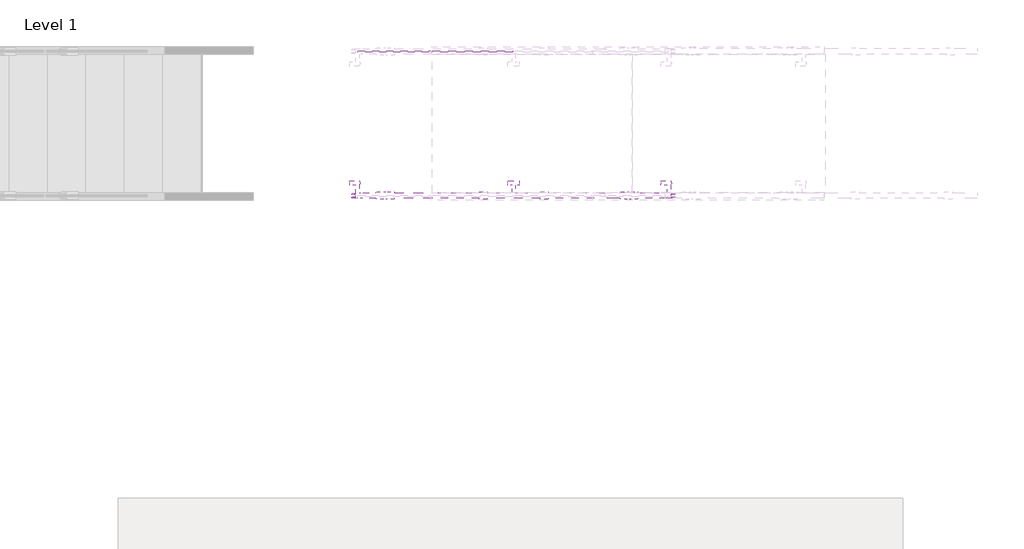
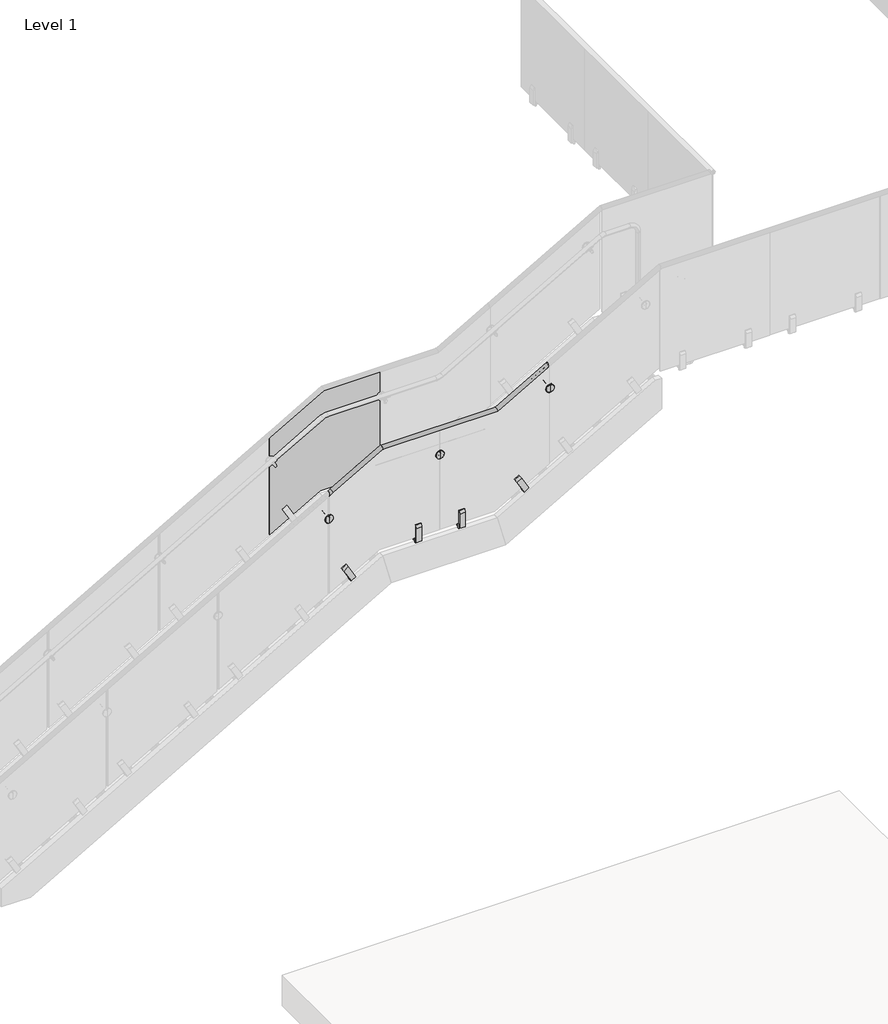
# One storey, part 4 of 17: 2 railings.
"""IFC4 building model written with IfcOpenShell, lengths in millimetres."""

from ifc_helpers import new_model, si_unit, point, frame, frame_2d, origin, place, context, project, spatial, polyline, circle_curve, ellipse_curve, trimmed, segment, composite_curve, outline, extrude, transform, mapped, element, save
from ifc_brep_helpers import plane_surface, cylinder_surface, revolved_surface, advanced_brep
from components import standard_glass_eb46f0c2

model = new_model("IFC4")

# Units and contexts
model_context = context("Model", 3, world=origin())
ifc_project = project(units=[si_unit("LENGTHUNIT", "METRE", prefix="MILLI")], contexts=[model_context])

# Site, building, storey
site = spatial("IfcSite", under=ifc_project)
building = spatial("IfcBuilding", under=site)
storey = spatial("IfcBuildingStorey", under=building, Name="Level 1", Elevation=0.0)

# Railings
placement = place(None, origin())
element("IfcRailing", 1, ObjectType="VIVA-VISIO-Glass-Steel Surface Mount-Stair-Landing", at=placement, inside=storey, context=model_context, shape_type="SolidModel", body=[
    advanced_brep(
    [(27409.6773931, -22033.4070565, 2977.4583674), (27409.7053311, -22056.3417549, 2977.4094758), (27869.7292424, -22056.3417549, 3240.2802823), (27869.7142882, -22033.4070565, 3240.3365932), (27408.4065092, -22038.5617549, 2979.6824142), (27869.0340321, -22038.5617549, 3242.8981415), (27396.2707818, -22038.5617549, 3000.9199372), (27862.5382355, -22038.5617549, 3267.3584821), (27396.2707818, -22051.2617549, 3000.9199372), (27862.5382355, -22051.2617549, 3267.3584821), (27408.4451382, -22051.2617549, 2979.6148134), (27869.0547087, -22051.2617549, 3242.8202823), (28936.5292424, -22056.3417549, 3240.2802823), (28936.5142882, -22033.4070565, 3240.3365932), (28935.8340321, -22038.5617549, 3242.8981415), (28929.3382355, -22038.5617549, 3267.3584821), (28929.3382355, -22051.2617549, 3267.3584821), (28935.8547087, -22051.2617549, 3242.8202823), (29408.2362561, -22056.3417549, 3509.8271473), (29408.2362561, -22051.2617549, 3512.7525951), (29408.2362561, -22051.2617549, 3541.0144939), (29408.2362561, -22038.5617549, 3541.0144939), (29408.2362561, -22038.5617549, 3512.8422695), (29408.2362561, -22033.4070565, 3509.8920034), (27369.8862561, -22056.3417549, 2954.6557187), (27369.8862561, -22033.4070565, 2954.7205748), (27369.8862561, -22038.5617549, 2957.670841), (27369.8862561, -22038.5617549, 2985.8430653), (27369.8862561, -22051.2617549, 2985.8430653), (27369.8862561, -22051.2617549, 2957.5811665)],
    [
        (0, 1, circle_curve(frame((27402.1441737, -22044.9117549, 2990.6415013), z_axis=(0.8682431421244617, 0.0, 0.4961389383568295), x_axis=(0.0, 1.0, 0.0)), 19.05)),
        (1, 2),
        (2, 3, ellipse_curve(frame((27865.6820404, -22044.9117549, 3255.5202823), z_axis=(-0.9664996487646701, 0.0, -0.25666793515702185), x_axis=(0.2566679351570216, 0.0, -0.9664996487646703)), 19.710302, 19.05)),
        (3, 0),
        (4, 0, circle_curve(frame((27408.4065092, -22035.3479446, 2979.6824142), z_axis=(0.8682431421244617, 0.0, 0.4961389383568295), x_axis=(0.0, 1.0, 0.0)), 3.2138103)),
        (3, 5, ellipse_curve(frame((27869.0340321, -22035.3479446, 3242.8981415), z_axis=(-0.9664996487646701, 0.0, -0.25666793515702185), x_axis=(0.2566679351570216, 0.0, -0.9664996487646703)), 3.3252058, 3.2138103)),
        (5, 4),
        (6, 4),
        (5, 7),
        (7, 6),
        (8, 6),
        (7, 9),
        (9, 8),
        (10, 8),
        (9, 11),
        (11, 10),
        (1, 10, circle_curve(frame((27408.4451382, -22054.4367549, 2979.6148134), z_axis=(0.8682431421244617, 0.0, 0.4961389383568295), x_axis=(0.0, 1.0, 0.0)), 3.175)),
        (11, 2, ellipse_curve(frame((27869.0547087, -22054.4367549, 3242.8202823), z_axis=(-0.9664996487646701, 0.0, -0.25666793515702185), x_axis=(0.2566679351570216, 0.0, -0.9664996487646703)), 3.2850503, 3.175)),
        (2, 12),
        (12, 13, ellipse_curve(frame((28932.4820404, -22044.9117549, 3255.5202823), z_axis=(-0.9664996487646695, 0.0, -0.256667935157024), x_axis=(-0.2566679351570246, 0.0, 0.9664996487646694)), 19.710302, 19.05)),
        (13, 3),
        (13, 14, ellipse_curve(frame((28935.8340321, -22035.3479446, 3242.8981415), z_axis=(-0.9664996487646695, 0.0, -0.256667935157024), x_axis=(-0.2566679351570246, 0.0, 0.9664996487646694)), 3.3252058, 3.2138103)),
        (14, 5),
        (14, 15),
        (15, 7),
        (15, 16),
        (16, 9),
        (16, 17),
        (17, 11),
        (17, 12, ellipse_curve(frame((28935.8547087, -22054.4367549, 3242.8202823), z_axis=(-0.9664996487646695, 0.0, -0.256667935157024), x_axis=(-0.2566679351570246, 0.0, 0.9664996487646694)), 3.2850503, 3.175)),
        (18, 19, ellipse_curve(frame((29408.2362561, -22054.4367549, 3512.7525951), z_axis=(1.0, 0.0, 0.0), x_axis=(0.0, 0.0, -0.9999999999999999)), 3.6568098, 3.175)),
        (19, 20),
        (20, 21),
        (21, 22),
        (22, 23, ellipse_curve(frame((29408.2362561, -22035.3479446, 3512.8422695), z_axis=(1.0, 0.0, 0.0), x_axis=(0.0, 0.0, -0.9999999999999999)), 3.7015096, 3.2138103)),
        (23, 18, ellipse_curve(frame((29408.2362561, -22044.9117549, 3527.3798341), z_axis=(1.0, 0.0, 0.0), x_axis=(0.0, 0.0, -0.9999999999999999)), 21.9408586, 19.05)),
        (12, 18),
        (23, 13),
        (22, 14),
        (21, 15),
        (20, 16),
        (19, 17),
        (24, 25, ellipse_curve(frame((27369.8862561, -22044.9117549, 2972.2084056), z_axis=(-1.0, 0.0, 0.0), x_axis=(0.0, 0.0, -0.9999999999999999)), 21.9408586, 19.05)),
        (25, 26, ellipse_curve(frame((27369.8862561, -22035.3479446, 2957.670841), z_axis=(-1.0, 0.0, 0.0), x_axis=(0.0, 0.0, -0.9999999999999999)), 3.7015096, 3.2138103)),
        (26, 27),
        (27, 28),
        (28, 29),
        (29, 24, ellipse_curve(frame((27369.8862561, -22054.4367549, 2957.5811665), z_axis=(-1.0, 0.0, 0.0), x_axis=(0.0, 0.0, -0.9999999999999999)), 3.6568098, 3.175)),
        (24, 1),
        (0, 25),
        (4, 26),
        (6, 27),
        (8, 28),
        (10, 29),
    ],
    [
        cylinder_surface(frame((27402.1441737, -22044.9117549, 2990.6415013), z_axis=(-0.8682431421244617, 0.0, -0.4961389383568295), x_axis=(0.0, 1.0, 0.0)), 19.05),
        cylinder_surface(frame((27408.4065092, -22035.3479446, 2979.6824142), z_axis=(-0.8682431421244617, 0.0, -0.4961389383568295), x_axis=(0.0, 1.0, 0.0)), 3.2138103),
        plane_surface(frame((27408.4065092, -22038.5617549, 2979.6824142), z_axis=(0.0, -1.0, 0.0), x_axis=(0.8682431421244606, 0.0, 0.4961389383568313))),
        plane_surface(frame((27396.2707818, -22038.5617549, 3000.9199372), z_axis=(0.4961389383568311, 0.0, -0.8682431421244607), x_axis=(0.8682431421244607, 0.0, 0.4961389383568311))),
        plane_surface(frame((27396.2707818, -22051.2617549, 3000.9199372), z_axis=(0.0, 1.0, 0.0), x_axis=(0.8682431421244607, 0.0, 0.4961389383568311))),
        cylinder_surface(frame((27408.4451382, -22054.4367549, 2979.6148134), z_axis=(-0.8682431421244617, 0.0, -0.4961389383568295), x_axis=(0.0, 1.0, 0.0)), 3.175),
        cylinder_surface(frame((27862.0112561, -22044.9117549, 3255.5202823), z_axis=(-1.0, 0.0, 0.0), x_axis=(0.0, 1.0, 0.0)), 19.05),
        cylinder_surface(frame((27862.0112561, -22035.3479446, 3242.8981415), z_axis=(-1.0, 0.0, 0.0), x_axis=(0.0, 1.0, 0.0)), 3.2138103),
        plane_surface(frame((27869.0340321, -22038.5617549, 3242.8981415), z_axis=(0.0, -1.0, 0.0), x_axis=(1.0, 0.0, 0.0))),
        plane_surface(frame((27862.5382355, -22038.5617549, 3267.3584821), z_axis=(0.0, 0.0, -1.0), x_axis=(1.0, 0.0, 0.0))),
        plane_surface(frame((27862.5382355, -22051.2617549, 3267.3584821), z_axis=(0.0, 1.0, 0.0), x_axis=(1.0, 0.0, 0.0))),
        cylinder_surface(frame((27862.0112561, -22054.4367549, 3242.8202823), z_axis=(-1.0, 0.0, 0.0), x_axis=(0.0, 1.0, 0.0)), 3.175),
        plane_surface(frame((29408.2362561, -22044.9117549, 3543.3), z_axis=(1.0, 0.0, 0.0), x_axis=(0.0, 1.0, 0.0))),
        cylinder_surface(frame((28935.6691737, -22044.9117549, 3257.3415013), z_axis=(-0.8682431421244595, 0.0, -0.49613893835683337), x_axis=(0.0, 1.0, 0.0)), 19.05),
        cylinder_surface(frame((28941.9315092, -22035.3479446, 3246.3824142), z_axis=(-0.8682431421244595, 0.0, -0.49613893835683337), x_axis=(0.0, 1.0, 0.0)), 3.2138103),
        plane_surface(frame((28935.8340321, -22038.5617549, 3242.8981415), z_axis=(0.0, -1.0000000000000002, 0.0), x_axis=(0.8682431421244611, 0.0, 0.49613893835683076))),
        plane_surface(frame((28929.3382355, -22038.5617549, 3267.3584821), z_axis=(0.4961389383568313, 0.0, -0.8682431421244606), x_axis=(0.8682431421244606, 0.0, 0.4961389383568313))),
        plane_surface(frame((28929.3382355, -22051.2617549, 3267.3584821), z_axis=(0.0, 1.0, 0.0), x_axis=(0.8682431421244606, 0.0, 0.4961389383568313))),
        cylinder_surface(frame((28941.9701382, -22054.4367549, 3246.3148134), z_axis=(-0.8682431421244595, 0.0, -0.49613893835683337), x_axis=(0.0, 1.0, 0.0)), 3.175),
        plane_surface(frame((27369.8862561, -22044.9117549, 2988.1285714), z_axis=(-1.0, 0.0, 0.0), x_axis=(0.0, 1.0, 0.0))),
        cylinder_surface(frame((27376.7441737, -22044.9117549, 2976.1272156), z_axis=(-0.8682431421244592, 0.0, -0.4961389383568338), x_axis=(0.0, 1.0, 0.0)), 19.05),
        cylinder_surface(frame((27383.0065092, -22035.3479446, 2965.1681285), z_axis=(-0.8682431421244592, 0.0, -0.4961389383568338), x_axis=(0.0, 1.0, 0.0)), 3.2138103),
        plane_surface(frame((27369.8862561, -22038.5617549, 2957.670841), z_axis=(0.0, -1.0000000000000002, 0.0), x_axis=(0.8682431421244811, 0.0, 0.49613893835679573))),
        plane_surface(frame((27369.8862561, -22038.5617549, 2985.8430653), z_axis=(0.49613893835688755, 0.0, -0.8682431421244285), x_axis=(0.8682431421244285, 0.0, 0.49613893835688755))),
        plane_surface(frame((27369.8862561, -22051.2617549, 2985.8430653), z_axis=(0.0, 1.0, 0.0), x_axis=(0.8682431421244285, 0.0, 0.49613893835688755))),
        cylinder_surface(frame((27383.0451382, -22054.4367549, 2965.1005277), z_axis=(-0.8682431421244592, 0.0, -0.4961389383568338), x_axis=(0.0, 1.0, 0.0)), 3.175),
    ],
    [
        (0, [[1, 2, 3, 4]]),
        (1, [[5, -4, 6, 7]]),
        (2, [[8, -7, 9, 10]]),
        (3, [[11, -10, 12, 13]]),
        (4, [[14, -13, 15, 16]]),
        (5, [[17, -16, 18, -2]]),
        (6, [[-3, 19, 20, 21]]),
        (7, [[-6, -21, 22, 23]]),
        (8, [[-9, -23, 24, 25]]),
        (9, [[-12, -25, 26, 27]]),
        (10, [[-15, -27, 28, 29]]),
        (11, [[-18, -29, 30, -19]]),
        (12, [[31, 32, 33, 34, 35, 36]]),
        (13, [[-20, 37, -36, 38]]),
        (14, [[-22, -38, -35, 39]]),
        (15, [[-24, -39, -34, 40]]),
        (16, [[-26, -40, -33, 41]]),
        (17, [[-28, -41, -32, 42]]),
        (18, [[-30, -42, -31, -37]]),
        (19, [[43, 44, 45, 46, 47, 48]]),
        (20, [[-43, 49, -1, 50]]),
        (21, [[-44, -50, -5, 51]]),
        (22, [[-45, -51, -8, 52]]),
        (23, [[-46, -52, -11, 53]]),
        (24, [[-47, -53, -14, 54]]),
        (25, [[-48, -54, -17, -49]]),
    ],
),
    extrude(outline(polyline([(0.0, 12.7), (50.8, 12.7), (50.8, 0.0), (0.0, 0.0), (0.0, 12.7)])), frame((29184.8878803, -22051.2617549, 2357.936753), z_axis=(-0.49613893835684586, 0.0, 0.8682431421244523), x_axis=(0.8682431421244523, 0.0, 0.49613893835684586)), (0.0, 0.0, 1.0), 50.8),
    extrude(outline(polyline([(0.0, 0.0), (0.0, 19.05), (166.6875, 19.05), (166.6875, 11.1125), (139.7, 0.0), (0.0, 0.0)])), frame((29177.7992952, -22019.5117549, 2370.3417769), z_axis=(0.8682431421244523, 0.0, 0.49613893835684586), x_axis=(-0.49613893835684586, 0.0, 0.8682431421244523)), (0.0, 0.0, 1.0), 50.8),
    extrude(outline(polyline([(0.0, 50.8), (139.7, 50.8), (166.6875, 39.6875), (166.6875, 31.75), (0.0, 31.75), (0.0, 50.8)])), frame((29177.7992952, -22019.5117549, 2370.3417769), z_axis=(0.8682431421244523, 0.0, 0.49613893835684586), x_axis=(-0.49613893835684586, 0.0, 0.8682431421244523)), (0.0, 0.0, 1.0), 50.8),
    extrude(outline(polyline([(28577.6562561, -22038.5617549), (28628.4562561, -22038.5617549), (28628.4562561, -22051.2617549), (28577.6562561, -22051.2617549), (28577.6562561, -22038.5617549)])), frame((0.0, 0.0, 2208.8928571), z_axis=(0.0, 0.0, 1.0), x_axis=(1.0, 0.0, 0.0)), (0.0, 0.0, 1.0), 50.8),
    extrude(outline(polyline([(-22019.5117549, 2223.1803571), (-22038.5617549, 2223.1803571), (-22038.5617549, 2389.8678571), (-22030.6242549, 2389.8678571), (-22019.5117549, 2362.8803571), (-22019.5117549, 2223.1803571)])), frame((28577.6562561, 0.0, 0.0), z_axis=(1.0, 0.0, 0.0), x_axis=(0.0, 1.0, 0.0)), (0.0, 0.0, 1.0), 50.8),
    extrude(outline(polyline([(-22070.3117549, 2223.1803571), (-22070.3117549, 2362.8803571), (-22059.1992549, 2389.8678571), (-22051.2617549, 2389.8678571), (-22051.2617549, 2223.1803571), (-22070.3117549, 2223.1803571)])), frame((28577.6562561, 0.0, 0.0), z_axis=(1.0, 0.0, 0.0), x_axis=(0.0, 1.0, 0.0)), (0.0, 0.0, 1.0), 50.8),
    extrude(outline(composite_curve([segment(trimmed(circle_curve(frame_2d((0.0, -7.0)), 7.0), [point((0.0, -14.0))], [point((0.0, 0.0))], False, "CARTESIAN"), True, "CONTINUOUS"), segment(trimmed(circle_curve(frame_2d((0.0, -7.0)), 7.0), [point((0.0, 0.0))], [point((0.0, -14.0))], False, "CARTESIAN"), True, "CONTINUOUS")], self_intersect=False)), frame((28401.7612561, -21969.6918939, 2977.3279722), z_axis=(-0.0016124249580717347, 0.0, 0.9999987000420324), x_axis=(-0.9999987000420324, 0.0, -0.0016124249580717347)), (0.0, 0.0, 1.0), 52.8378352),
    extrude(outline(composite_curve([segment(polyline([(5.2466064, -13.9247915), (4.2292193, -14.9511811)]), True, "CONTINUOUS"), segment(trimmed(circle_curve(frame_2d((3.1638974, -13.8952033)), 1.5), [point((4.2292193, -14.9511811))], [point((2.0329757, -14.8806047))], False, "CARTESIAN"), True, "CONTINUOUS"), segment(trimmed(circle_curve(frame_2d((18.6575252, -0.3952033)), 22.05), [point((2.0329757, -14.8806047))], [point((2.0329757, 14.0901982))], False, "CARTESIAN"), True, "CONTINUOUS"), segment(trimmed(circle_curve(frame_2d((3.1638974, 13.1047967)), 1.5), [point((2.0329757, 14.0901982))], [point((4.2292193, 14.1607746))], False, "CARTESIAN"), True, "CONTINUOUS"), segment(polyline([(4.2292193, 14.1607746), (5.2466064, 13.134385)]), True, "CONTINUOUS"), segment(trimmed(circle_curve(frame_2d((18.6575252, -0.3952033)), 19.05), [point((5.2466064, 13.134385))], [point((5.2466064, -13.9247915))], True, "CARTESIAN"), True, "CONTINUOUS")], self_intersect=False)), frame((28437.5288142, -21960.9646616, 3033.4996008), z_axis=(-0.9999989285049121, 0.0, 0.0014638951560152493), x_axis=(0.0014638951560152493, 0.0, 0.9999989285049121)), (0.0, 0.0, 1.0), 74.5229187),
    extrude(outline(composite_curve([segment(trimmed(circle_curve(frame_2d((3002.8968571, 28401.7612561)), 11.0132813), [point((3002.8968571, 28412.7745373))], [point((3002.8968571, 28390.7479748))], False, "CARTESIAN"), True, "CONTINUOUS"), segment(trimmed(circle_curve(frame_2d((3002.8968571, 28401.7612561)), 11.0132813), [point((3002.8968571, 28390.7479748))], [point((3002.8968571, 28412.7745373))], False, "CARTESIAN"), True, "CONTINUOUS")], self_intersect=False)), frame((0.0, -22028.9375361, 0.0), z_axis=(0.0, 1.0, 0.0), x_axis=(0.0, 0.0, 1.0)), (0.0, 0.0, 1.0), 79.2757812),
    advanced_brep(
    [(28401.7612561, -22060.8859736, 3002.8968571), (28401.7612561, -22060.8859736, 3039.0124821), (28401.7612561, -22060.8859736, 2966.7812321), (28401.7612561, -22028.9375361, 2966.7812321), (28401.7612561, -22028.9375361, 3039.0124821), (28401.7612561, -22028.9375361, 3002.8968571), (28401.7612561, -22030.9219111, 2964.7968571), (28401.7612561, -22030.9219111, 3040.9968571), (28401.7612561, -22038.5617549, 2964.7968571), (28401.7612561, -22038.5617549, 3040.9968571), (28401.7612561, -22038.5617549, 2990.1968571), (28401.7612561, -22038.5617549, 3015.5968571), (28401.7612561, -22051.2617549, 2990.1968571), (28401.7612561, -22051.2617549, 3015.5968571), (28401.7612561, -22051.2617549, 2964.7968571), (28401.7612561, -22051.2617549, 3040.9968571), (28401.7612561, -22058.9015986, 2964.7968571), (28401.7612561, -22058.9015986, 3040.9968571)],
    [
        (0, 1),
        (1, 2, circle_curve(frame((28401.7612561, -22060.8859736, 3002.8968571), z_axis=(0.0, -1.0, 0.0), x_axis=(0.0, 0.0, 1.0)), 36.115625)),
        (2, 0),
        (2, 1, circle_curve(frame((28401.7612561, -22060.8859736, 3002.8968571), z_axis=(0.0, -1.0, 0.0), x_axis=(0.0, 0.0, 1.0)), 36.115625)),
        (3, 4, circle_curve(frame((28401.7612561, -22028.9375361, 3002.8968571), z_axis=(0.0, 1.0, 0.0), x_axis=(0.0, 0.0, 1.0)), 36.115625)),
        (4, 5),
        (5, 3),
        (4, 3, circle_curve(frame((28401.7612561, -22028.9375361, 3002.8968571), z_axis=(0.0, 1.0, 0.0), x_axis=(0.0, 0.0, 1.0)), 36.115625)),
        (6, 7, circle_curve(frame((28401.7612561, -22030.9219111, 3002.8968571), z_axis=(0.0, 1.0, 0.0), x_axis=(0.0, 0.0, 1.0)), 38.1)),
        (7, 4),
        (3, 6),
        (7, 6, circle_curve(frame((28401.7612561, -22030.9219111, 3002.8968571), z_axis=(0.0, 1.0, 0.0), x_axis=(0.0, 0.0, 1.0)), 38.1)),
        (8, 9, circle_curve(frame((28401.7612561, -22038.5617549, 3002.8968571), z_axis=(0.0, 1.0, 0.0), x_axis=(0.0, 0.0, 1.0)), 38.1)),
        (9, 7),
        (6, 8),
        (9, 8, circle_curve(frame((28401.7612561, -22038.5617549, 3002.8968571), z_axis=(0.0, 1.0, 0.0), x_axis=(0.0, 0.0, 1.0)), 38.1)),
        (10, 11, circle_curve(frame((28401.7612561, -22038.5617549, 3002.8968571), z_axis=(0.0, 1.0, 0.0), x_axis=(0.0, 0.0, 1.0)), 12.7)),
        (11, 9),
        (8, 10),
        (11, 10, circle_curve(frame((28401.7612561, -22038.5617549, 3002.8968571), z_axis=(0.0, 1.0, 0.0), x_axis=(0.0, 0.0, 1.0)), 12.7)),
        (12, 13, circle_curve(frame((28401.7612561, -22051.2617549, 3002.8968571), z_axis=(0.0, 1.0, 0.0), x_axis=(0.0, 0.0, 1.0)), 12.7)),
        (13, 11),
        (10, 12),
        (13, 12, circle_curve(frame((28401.7612561, -22051.2617549, 3002.8968571), z_axis=(0.0, 1.0, 0.0), x_axis=(0.0, 0.0, 1.0)), 12.7)),
        (14, 15, circle_curve(frame((28401.7612561, -22051.2617549, 3002.8968571), z_axis=(0.0, 1.0, 0.0), x_axis=(0.0, 0.0, 1.0)), 38.1)),
        (15, 13),
        (12, 14),
        (15, 14, circle_curve(frame((28401.7612561, -22051.2617549, 3002.8968571), z_axis=(0.0, 1.0, 0.0), x_axis=(0.0, 0.0, 1.0)), 38.1)),
        (16, 17, circle_curve(frame((28401.7612561, -22058.9015986, 3002.8968571), z_axis=(0.0, 1.0, 0.0), x_axis=(0.0, 0.0, 1.0)), 38.1)),
        (17, 15),
        (14, 16),
        (17, 16, circle_curve(frame((28401.7612561, -22058.9015986, 3002.8968571), z_axis=(0.0, 1.0, 0.0), x_axis=(0.0, 0.0, 1.0)), 38.1)),
        (1, 17),
        (16, 2),
    ],
    [
        plane_surface(frame((28401.7612561, -22060.8859736, 3002.8968571), z_axis=(0.0, -1.0, 0.0), x_axis=(0.0, 0.0, 1.0))),
        plane_surface(frame((28401.7612561, -22028.9375361, 3002.8968571), z_axis=(0.0, 1.0, 0.0), x_axis=(0.0, 0.0, 1.0))),
        revolved_surface(polyline([(28401.7612561, -22028.9375361, 3039.0124821), (28401.7612561, -22030.9219111, 3040.9968571)]), (28401.7612561, -22097.0015986, 3002.8968571), (0.0, -1.0, 0.0)),
        cylinder_surface(frame((28401.7612561, -22097.0015986, 3002.8968571), z_axis=(0.0, -1.0, 0.0), x_axis=(0.0, 0.0, 1.0)), 38.1),
        plane_surface(frame((28401.7612561, -22038.5617549, 3002.8968571), z_axis=(0.0, -1.0, 0.0), x_axis=(0.0, 0.0, 1.0))),
        cylinder_surface(frame((28401.7612561, -22097.0015986, 3002.8968571), z_axis=(0.0, -1.0, 0.0), x_axis=(0.0, 0.0, 1.0)), 12.7),
        plane_surface(frame((28401.7612561, -22051.2617549, 3002.8968571), z_axis=(0.0, 1.0, 0.0), x_axis=(0.0, 0.0, 1.0))),
        revolved_surface(polyline([(28401.7612561, -22058.9015986, 3040.9968571), (28401.7612561, -22060.8859736, 3039.0124821)]), (28401.7612561, -22097.0015986, 3002.8968571), (0.0, -1.0, 0.0)),
    ],
    [
        (0, [[1, 2, 3]]),
        (0, [[-3, 4, -1]]),
        (1, [[5, 6, 7]]),
        (1, [[8, -7, -6]]),
        (2, [[9, 10, -5, 11]]),
        (2, [[12, -11, -8, -10]]),
        (3, [[13, 14, -9, 15]]),
        (3, [[16, -15, -12, -14]]),
        (4, [[17, 18, -13, 19]]),
        (4, [[20, -19, -16, -18]]),
        (5, [[21, 22, -17, 23]]),
        (5, [[24, -23, -20, -22]]),
        (6, [[25, 26, -21, 27]]),
        (6, [[28, -27, -24, -26]]),
        (3, [[29, 30, -25, 31]]),
        (3, [[32, -31, -28, -30]]),
        (7, [[-2, 33, -29, 34]]),
        (7, [[-4, -34, -32, -33]]),
    ],
),
    extrude(outline(polyline([(28175.0662561, -22038.5617549), (28225.8662561, -22038.5617549), (28225.8662561, -22051.2617549), (28175.0662561, -22051.2617549), (28175.0662561, -22038.5617549)])), frame((0.0, 0.0, 2208.8928571), z_axis=(0.0, 0.0, 1.0), x_axis=(1.0, 0.0, 0.0)), (0.0, 0.0, 1.0), 50.8),
    extrude(outline(polyline([(-22019.5117549, 2223.1803571), (-22038.5617549, 2223.1803571), (-22038.5617549, 2389.8678571), (-22030.6242549, 2389.8678571), (-22019.5117549, 2362.8803571), (-22019.5117549, 2223.1803571)])), frame((28175.0662561, 0.0, 0.0), z_axis=(1.0, 0.0, 0.0), x_axis=(0.0, 1.0, 0.0)), (0.0, 0.0, 1.0), 50.8),
    extrude(outline(polyline([(-22070.3117549, 2223.1803571), (-22070.3117549, 2362.8803571), (-22059.1992549, 2389.8678571), (-22051.2617549, 2389.8678571), (-22051.2617549, 2223.1803571), (-22070.3117549, 2223.1803571)])), frame((28175.0662561, 0.0, 0.0), z_axis=(1.0, 0.0, 0.0), x_axis=(0.0, 1.0, 0.0)), (0.0, 0.0, 1.0), 50.8),
    extrude(outline(polyline([(0.0, 12.7), (50.8, 12.7), (50.8, 0.0), (0.0, 0.0), (0.0, 12.7)])), frame((27574.5278803, -22051.2617549, 2047.3310387), z_axis=(-0.49613893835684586, 0.0, 0.8682431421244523), x_axis=(0.8682431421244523, 0.0, 0.49613893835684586)), (0.0, 0.0, 1.0), 50.8),
    extrude(outline(polyline([(0.0, 0.0), (0.0, 19.05), (166.6875, 19.05), (166.6875, 11.1125), (139.7, 0.0), (0.0, 0.0)])), frame((27567.4392952, -22019.5117549, 2059.7360626), z_axis=(0.8682431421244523, 0.0, 0.49613893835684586), x_axis=(-0.49613893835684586, 0.0, 0.8682431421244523)), (0.0, 0.0, 1.0), 50.8),
    extrude(outline(polyline([(0.0, 50.8), (139.7, 50.8), (166.6875, 39.6875), (166.6875, 31.75), (0.0, 31.75), (0.0, 50.8)])), frame((27567.4392952, -22019.5117549, 2059.7360626), z_axis=(0.8682431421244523, 0.0, 0.49613893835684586), x_axis=(-0.49613893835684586, 0.0, 0.8682431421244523)), (0.0, 0.0, 1.0), 50.8),
    extrude(outline(composite_curve([segment(trimmed(circle_curve(frame_2d((0.0, -7.0)), 7.0), [point((0.0, -14.0))], [point((0.0, 0.0))], False, "CARTESIAN"), True, "CONTINUOUS"), segment(trimmed(circle_curve(frame_2d((0.0, -7.0)), 7.0), [point((0.0, 0.0))], [point((0.0, -14.0))], False, "CARTESIAN"), True, "CONTINUOUS")], self_intersect=False)), frame((29438.8124492, -21969.6918939, 3274.0214845), z_axis=(-0.5018548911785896, 0.0, 0.8649518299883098), x_axis=(-0.8649518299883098, 0.0, -0.5018548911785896)), (0.0, 0.0, 1.0), 52.8378352),
    extrude(outline(composite_curve([segment(trimmed(circle_curve(frame_2d((18.6575251, 0.3952033)), 19.05), [point((5.2466063, 13.9247915))], [point((5.2466063, -13.134385))], True, "CARTESIAN"), True, "CONTINUOUS"), segment(polyline([(5.2466063, -13.134385), (4.2292193, -14.1607746)]), True, "CONTINUOUS"), segment(trimmed(circle_curve(frame_2d((3.1638973, -13.1047967)), 1.5), [point((4.2292193, -14.1607746))], [point((2.0329756, -14.0901982))], False, "CARTESIAN"), True, "CONTINUOUS"), segment(trimmed(circle_curve(frame_2d((18.6575251, 0.3952033)), 22.05), [point((2.0329756, -14.0901982))], [point((2.0329756, 14.8806047))], False, "CARTESIAN"), True, "CONTINUOUS"), segment(trimmed(circle_curve(frame_2d((3.1638973, 13.8952033)), 1.5), [point((2.0329756, 14.8806047))], [point((4.2292193, 14.9511811))], False, "CARTESIAN"), True, "CONTINUOUS"), segment(polyline([(4.2292193, 14.9511811), (5.2466063, 13.9247915)]), True, "CONTINUOUS")], self_intersect=False)), frame((29374.3446671, -21960.9646616, 3301.7626674), z_axis=(0.8664916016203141, 0.0, 0.49919165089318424), x_axis=(-0.49919165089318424, 0.0, 0.8664916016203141)), (0.0, 0.0, 1.0), 74.5229187),
    extrude(outline(composite_curve([segment(trimmed(circle_curve(frame_2d((3296.158, 29426.0162561)), 11.0132813), [point((3296.158, 29437.0295373))], [point((3296.158, 29415.0029748))], False, "CARTESIAN"), True, "CONTINUOUS"), segment(trimmed(circle_curve(frame_2d((3296.158, 29426.0162561)), 11.0132813), [point((3296.158, 29415.0029748))], [point((3296.158, 29437.0295373))], False, "CARTESIAN"), True, "CONTINUOUS")], self_intersect=False)), frame((0.0, -22028.9375361, 0.0), z_axis=(0.0, 1.0, 0.0), x_axis=(0.0, 0.0, 1.0)), (0.0, 0.0, 1.0), 79.2757812),
    advanced_brep(
    [(29426.0162561, -22060.8859736, 3296.158), (29426.0162561, -22060.8859736, 3332.273625), (29426.0162561, -22060.8859736, 3260.042375), (29426.0162561, -22028.9375361, 3260.042375), (29426.0162561, -22028.9375361, 3332.273625), (29426.0162561, -22028.9375361, 3296.158), (29426.0162561, -22030.9219111, 3258.058), (29426.0162561, -22030.9219111, 3334.258), (29426.0162561, -22038.5617549, 3258.058), (29426.0162561, -22038.5617549, 3334.258), (29426.0162561, -22038.5617549, 3283.458), (29426.0162561, -22038.5617549, 3308.858), (29426.0162561, -22051.2617549, 3283.458), (29426.0162561, -22051.2617549, 3308.858), (29426.0162561, -22051.2617549, 3258.058), (29426.0162561, -22051.2617549, 3334.258), (29426.0162561, -22058.9015986, 3258.058), (29426.0162561, -22058.9015986, 3334.258)],
    [
        (0, 1),
        (1, 2, circle_curve(frame((29426.0162561, -22060.8859736, 3296.158), z_axis=(0.0, -1.0, 0.0), x_axis=(0.0, 0.0, 1.0)), 36.115625)),
        (2, 0),
        (2, 1, circle_curve(frame((29426.0162561, -22060.8859736, 3296.158), z_axis=(0.0, -1.0, 0.0), x_axis=(0.0, 0.0, 1.0)), 36.115625)),
        (3, 4, circle_curve(frame((29426.0162561, -22028.9375361, 3296.158), z_axis=(0.0, 1.0, 0.0), x_axis=(0.0, 0.0, 1.0)), 36.115625)),
        (4, 5),
        (5, 3),
        (4, 3, circle_curve(frame((29426.0162561, -22028.9375361, 3296.158), z_axis=(0.0, 1.0, 0.0), x_axis=(0.0, 0.0, 1.0)), 36.115625)),
        (6, 7, circle_curve(frame((29426.0162561, -22030.9219111, 3296.158), z_axis=(0.0, 1.0, 0.0), x_axis=(0.0, 0.0, 1.0)), 38.1)),
        (7, 4),
        (3, 6),
        (7, 6, circle_curve(frame((29426.0162561, -22030.9219111, 3296.158), z_axis=(0.0, 1.0, 0.0), x_axis=(0.0, 0.0, 1.0)), 38.1)),
        (8, 9, circle_curve(frame((29426.0162561, -22038.5617549, 3296.158), z_axis=(0.0, 1.0, 0.0), x_axis=(0.0, 0.0, 1.0)), 38.1)),
        (9, 7),
        (6, 8),
        (9, 8, circle_curve(frame((29426.0162561, -22038.5617549, 3296.158), z_axis=(0.0, 1.0, 0.0), x_axis=(0.0, 0.0, 1.0)), 38.1)),
        (10, 11, circle_curve(frame((29426.0162561, -22038.5617549, 3296.158), z_axis=(0.0, 1.0, 0.0), x_axis=(0.0, 0.0, 1.0)), 12.7)),
        (11, 9),
        (8, 10),
        (11, 10, circle_curve(frame((29426.0162561, -22038.5617549, 3296.158), z_axis=(0.0, 1.0, 0.0), x_axis=(0.0, 0.0, 1.0)), 12.7)),
        (12, 13, circle_curve(frame((29426.0162561, -22051.2617549, 3296.158), z_axis=(0.0, 1.0, 0.0), x_axis=(0.0, 0.0, 1.0)), 12.7)),
        (13, 11),
        (10, 12),
        (13, 12, circle_curve(frame((29426.0162561, -22051.2617549, 3296.158), z_axis=(0.0, 1.0, 0.0), x_axis=(0.0, 0.0, 1.0)), 12.7)),
        (14, 15, circle_curve(frame((29426.0162561, -22051.2617549, 3296.158), z_axis=(0.0, 1.0, 0.0), x_axis=(0.0, 0.0, 1.0)), 38.1)),
        (15, 13),
        (12, 14),
        (15, 14, circle_curve(frame((29426.0162561, -22051.2617549, 3296.158), z_axis=(0.0, 1.0, 0.0), x_axis=(0.0, 0.0, 1.0)), 38.1)),
        (16, 17, circle_curve(frame((29426.0162561, -22058.9015986, 3296.158), z_axis=(0.0, 1.0, 0.0), x_axis=(0.0, 0.0, 1.0)), 38.1)),
        (17, 15),
        (14, 16),
        (17, 16, circle_curve(frame((29426.0162561, -22058.9015986, 3296.158), z_axis=(0.0, 1.0, 0.0), x_axis=(0.0, 0.0, 1.0)), 38.1)),
        (1, 17),
        (16, 2),
    ],
    [
        plane_surface(frame((29426.0162561, -22060.8859736, 3296.158), z_axis=(0.0, -1.0, 0.0), x_axis=(0.0, 0.0, 1.0))),
        plane_surface(frame((29426.0162561, -22028.9375361, 3296.158), z_axis=(0.0, 1.0, 0.0), x_axis=(0.0, 0.0, 1.0))),
        revolved_surface(polyline([(29426.0162561, -22028.9375361, 3332.273625), (29426.0162561, -22030.9219111, 3334.258)]), (29426.0162561, -22097.0015986, 3296.158), (0.0, -1.0, 0.0)),
        cylinder_surface(frame((29426.0162561, -22097.0015986, 3296.158), z_axis=(0.0, -1.0, 0.0), x_axis=(0.0, 0.0, 1.0)), 38.1),
        plane_surface(frame((29426.0162561, -22038.5617549, 3296.158), z_axis=(0.0, -1.0, 0.0), x_axis=(0.0, 0.0, 1.0))),
        cylinder_surface(frame((29426.0162561, -22097.0015986, 3296.158), z_axis=(0.0, -1.0, 0.0), x_axis=(0.0, 0.0, 1.0)), 12.7),
        plane_surface(frame((29426.0162561, -22051.2617549, 3296.158), z_axis=(0.0, 1.0, 0.0), x_axis=(0.0, 0.0, 1.0))),
        revolved_surface(polyline([(29426.0162561, -22058.9015986, 3334.258), (29426.0162561, -22060.8859736, 3332.273625)]), (29426.0162561, -22097.0015986, 3296.158), (0.0, -1.0, 0.0)),
    ],
    [
        (0, [[1, 2, 3]]),
        (0, [[-3, 4, -1]]),
        (1, [[5, 6, 7]]),
        (1, [[8, -7, -6]]),
        (2, [[9, 10, -5, 11]]),
        (2, [[12, -11, -8, -10]]),
        (3, [[13, 14, -9, 15]]),
        (3, [[16, -15, -12, -14]]),
        (4, [[17, 18, -13, 19]]),
        (4, [[20, -19, -16, -18]]),
        (5, [[21, 22, -17, 23]]),
        (5, [[24, -23, -20, -22]]),
        (6, [[25, 26, -21, 27]]),
        (6, [[28, -27, -24, -26]]),
        (3, [[29, 30, -25, 31]]),
        (3, [[32, -31, -28, -30]]),
        (7, [[-2, 33, -29, 34]]),
        (7, [[-4, -34, -32, -33]]),
    ],
),
    extrude(outline(composite_curve([segment(trimmed(circle_curve(frame_2d((0.0, -7.0)), 7.0), [point((0.0, -14.0))], [point((0.0, 0.0))], False, "CARTESIAN"), True, "CONTINUOUS"), segment(trimmed(circle_curve(frame_2d((0.0, -7.0)), 7.0), [point((0.0, 0.0))], [point((0.0, -14.0))], False, "CARTESIAN"), True, "CONTINUOUS")], self_intersect=False)), frame((27382.6824492, -21969.6918939, 2708.6900559), z_axis=(-0.5018548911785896, 0.0, 0.8649518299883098), x_axis=(-0.8649518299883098, 0.0, -0.5018548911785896)), (0.0, 0.0, 1.0), 52.8378352),
    extrude(outline(composite_curve([segment(trimmed(circle_curve(frame_2d((18.6575251, 0.3952033)), 19.05), [point((5.2466063, 13.9247915))], [point((5.2466063, -13.134385))], True, "CARTESIAN"), True, "CONTINUOUS"), segment(polyline([(5.2466063, -13.134385), (4.2292193, -14.1607746)]), True, "CONTINUOUS"), segment(trimmed(circle_curve(frame_2d((3.1638973, -13.1047967)), 1.5), [point((4.2292193, -14.1607746))], [point((2.0329756, -14.0901982))], False, "CARTESIAN"), True, "CONTINUOUS"), segment(trimmed(circle_curve(frame_2d((18.6575251, 0.3952033)), 22.05), [point((2.0329756, -14.0901982))], [point((2.0329756, 14.8806047))], False, "CARTESIAN"), True, "CONTINUOUS"), segment(trimmed(circle_curve(frame_2d((3.1638973, 13.8952033)), 1.5), [point((2.0329756, 14.8806047))], [point((4.2292193, 14.9511811))], False, "CARTESIAN"), True, "CONTINUOUS"), segment(polyline([(4.2292193, 14.9511811), (5.2466063, 13.9247915)]), True, "CONTINUOUS")], self_intersect=False)), frame((27318.2146671, -21960.9646616, 2736.4312388), z_axis=(0.8664916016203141, 0.0, 0.49919165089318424), x_axis=(-0.49919165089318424, 0.0, 0.8664916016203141)), (0.0, 0.0, 1.0), 74.5229187),
    extrude(outline(composite_curve([segment(trimmed(circle_curve(frame_2d((2730.8265714, 27369.8862561)), 11.0132813), [point((2730.8265714, 27380.8995373))], [point((2730.8265714, 27358.8729748))], False, "CARTESIAN"), True, "CONTINUOUS"), segment(trimmed(circle_curve(frame_2d((2730.8265714, 27369.8862561)), 11.0132813), [point((2730.8265714, 27358.8729748))], [point((2730.8265714, 27380.8995373))], False, "CARTESIAN"), True, "CONTINUOUS")], self_intersect=False)), frame((0.0, -22028.9375361, 0.0), z_axis=(0.0, 1.0, 0.0), x_axis=(0.0, 0.0, 1.0)), (0.0, 0.0, 1.0), 79.2757812),
    advanced_brep(
    [(27369.8862561, -22060.8859736, 2730.8265714), (27369.8862561, -22060.8859736, 2766.9421964), (27369.8862561, -22060.8859736, 2694.7109464), (27369.8862561, -22028.9375361, 2694.7109464), (27369.8862561, -22028.9375361, 2766.9421964), (27369.8862561, -22028.9375361, 2730.8265714), (27369.8862561, -22030.9219111, 2692.7265714), (27369.8862561, -22030.9219111, 2768.9265714), (27369.8862561, -22038.5617549, 2692.7265714), (27369.8862561, -22038.5617549, 2768.9265714), (27369.8862561, -22038.5617549, 2718.1265714), (27369.8862561, -22038.5617549, 2743.5265714), (27369.8862561, -22051.2617549, 2718.1265714), (27369.8862561, -22051.2617549, 2743.5265714), (27369.8862561, -22051.2617549, 2692.7265714), (27369.8862561, -22051.2617549, 2768.9265714), (27369.8862561, -22058.9015986, 2692.7265714), (27369.8862561, -22058.9015986, 2768.9265714)],
    [
        (0, 1),
        (1, 2, circle_curve(frame((27369.8862561, -22060.8859736, 2730.8265714), z_axis=(0.0, -1.0, 0.0), x_axis=(0.0, 0.0, 1.0)), 36.115625)),
        (2, 0),
        (2, 1, circle_curve(frame((27369.8862561, -22060.8859736, 2730.8265714), z_axis=(0.0, -1.0, 0.0), x_axis=(0.0, 0.0, 1.0)), 36.115625)),
        (3, 4, circle_curve(frame((27369.8862561, -22028.9375361, 2730.8265714), z_axis=(0.0, 1.0, 0.0), x_axis=(0.0, 0.0, 1.0)), 36.115625)),
        (4, 5),
        (5, 3),
        (4, 3, circle_curve(frame((27369.8862561, -22028.9375361, 2730.8265714), z_axis=(0.0, 1.0, 0.0), x_axis=(0.0, 0.0, 1.0)), 36.115625)),
        (6, 7, circle_curve(frame((27369.8862561, -22030.9219111, 2730.8265714), z_axis=(0.0, 1.0, 0.0), x_axis=(0.0, 0.0, 1.0)), 38.1)),
        (7, 4),
        (3, 6),
        (7, 6, circle_curve(frame((27369.8862561, -22030.9219111, 2730.8265714), z_axis=(0.0, 1.0, 0.0), x_axis=(0.0, 0.0, 1.0)), 38.1)),
        (8, 9, circle_curve(frame((27369.8862561, -22038.5617549, 2730.8265714), z_axis=(0.0, 1.0, 0.0), x_axis=(0.0, 0.0, 1.0)), 38.1)),
        (9, 7),
        (6, 8),
        (9, 8, circle_curve(frame((27369.8862561, -22038.5617549, 2730.8265714), z_axis=(0.0, 1.0, 0.0), x_axis=(0.0, 0.0, 1.0)), 38.1)),
        (10, 11, circle_curve(frame((27369.8862561, -22038.5617549, 2730.8265714), z_axis=(0.0, 1.0, 0.0), x_axis=(0.0, 0.0, 1.0)), 12.7)),
        (11, 9),
        (8, 10),
        (11, 10, circle_curve(frame((27369.8862561, -22038.5617549, 2730.8265714), z_axis=(0.0, 1.0, 0.0), x_axis=(0.0, 0.0, 1.0)), 12.7)),
        (12, 13, circle_curve(frame((27369.8862561, -22051.2617549, 2730.8265714), z_axis=(0.0, 1.0, 0.0), x_axis=(0.0, 0.0, 1.0)), 12.7)),
        (13, 11),
        (10, 12),
        (13, 12, circle_curve(frame((27369.8862561, -22051.2617549, 2730.8265714), z_axis=(0.0, 1.0, 0.0), x_axis=(0.0, 0.0, 1.0)), 12.7)),
        (14, 15, circle_curve(frame((27369.8862561, -22051.2617549, 2730.8265714), z_axis=(0.0, 1.0, 0.0), x_axis=(0.0, 0.0, 1.0)), 38.1)),
        (15, 13),
        (12, 14),
        (15, 14, circle_curve(frame((27369.8862561, -22051.2617549, 2730.8265714), z_axis=(0.0, 1.0, 0.0), x_axis=(0.0, 0.0, 1.0)), 38.1)),
        (16, 17, circle_curve(frame((27369.8862561, -22058.9015986, 2730.8265714), z_axis=(0.0, 1.0, 0.0), x_axis=(0.0, 0.0, 1.0)), 38.1)),
        (17, 15),
        (14, 16),
        (17, 16, circle_curve(frame((27369.8862561, -22058.9015986, 2730.8265714), z_axis=(0.0, 1.0, 0.0), x_axis=(0.0, 0.0, 1.0)), 38.1)),
        (1, 17),
        (16, 2),
    ],
    [
        plane_surface(frame((27369.8862561, -22060.8859736, 2730.8265714), z_axis=(0.0, -1.0, 0.0), x_axis=(0.0, 0.0, 1.0))),
        plane_surface(frame((27369.8862561, -22028.9375361, 2730.8265714), z_axis=(0.0, 1.0, 0.0), x_axis=(0.0, 0.0, 1.0))),
        revolved_surface(polyline([(27369.8862561, -22028.9375361, 2766.9421964), (27369.8862561, -22030.9219111, 2768.9265714)]), (27369.8862561, -22097.0015986, 2730.8265714), (0.0, -1.0, 0.0)),
        cylinder_surface(frame((27369.8862561, -22097.0015986, 2730.8265714), z_axis=(0.0, -1.0, 0.0), x_axis=(0.0, 0.0, 1.0)), 38.1),
        plane_surface(frame((27369.8862561, -22038.5617549, 2730.8265714), z_axis=(0.0, -1.0, 0.0), x_axis=(0.0, 0.0, 1.0))),
        cylinder_surface(frame((27369.8862561, -22097.0015986, 2730.8265714), z_axis=(0.0, -1.0, 0.0), x_axis=(0.0, 0.0, 1.0)), 12.7),
        plane_surface(frame((27369.8862561, -22051.2617549, 2730.8265714), z_axis=(0.0, 1.0, 0.0), x_axis=(0.0, 0.0, 1.0))),
        revolved_surface(polyline([(27369.8862561, -22058.9015986, 2768.9265714), (27369.8862561, -22060.8859736, 2766.9421964)]), (27369.8862561, -22097.0015986, 2730.8265714), (0.0, -1.0, 0.0)),
    ],
    [
        (0, [[1, 2, 3]]),
        (0, [[-3, 4, -1]]),
        (1, [[5, 6, 7]]),
        (1, [[8, -7, -6]]),
        (2, [[9, 10, -5, 11]]),
        (2, [[12, -11, -8, -10]]),
        (3, [[13, 14, -9, 15]]),
        (3, [[16, -15, -12, -14]]),
        (4, [[17, 18, -13, 19]]),
        (4, [[20, -19, -16, -18]]),
        (5, [[21, 22, -17, 23]]),
        (5, [[24, -23, -20, -22]]),
        (6, [[25, 26, -21, 27]]),
        (6, [[28, -27, -24, -26]]),
        (3, [[29, 30, -25, 31]]),
        (3, [[32, -31, -28, -30]]),
        (7, [[-2, 33, -29, 34]]),
        (7, [[-4, -34, -32, -33]]),
    ],
),
])
standard_glass_shape = standard_glass_eb46f0c2(model_context)
element("IfcRailing", 2, ObjectType="Baluster-Landing-Panel-VIVA-VISIO-Lower : Standard_Glass", at=placement, inside=storey, context=model_context, shape_type="MappedRepresentation", body=[
    mapped(standard_glass_shape, transform((27377.2201997, -21055.8992549, 2177.1428571), x_axis=(0.0, -1.0, 0.0), y_axis=(1.0, 0.0, 0.0), z_axis=(0.0, 0.0, 1.0))),
])

save(model, "model.ifc")
